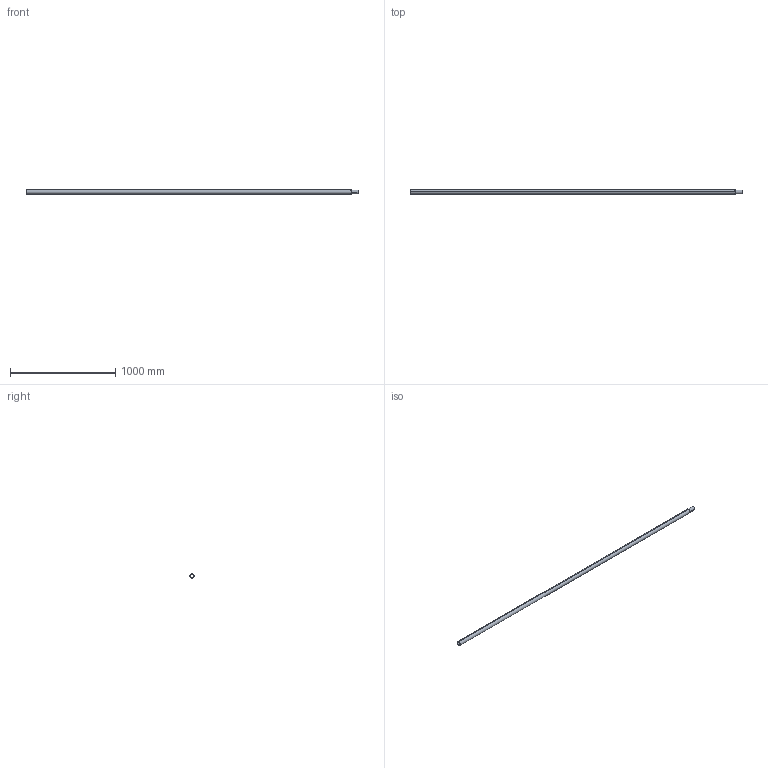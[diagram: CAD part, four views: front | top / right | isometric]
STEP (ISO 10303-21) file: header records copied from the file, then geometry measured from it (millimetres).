
FILE_DESCRIPTION (( 'STEP AP203' ), '1' );
FILE_NAME ('Rostfritt rör Ø42x1,5 L_3097.STEP', '2014-09-26T06:29:32', ( '' ), ( '' ), 'SwSTEP 2.0', 'SolidWorks 2014', '' );
FILE_SCHEMA (( 'CONFIG_CONTROL_DESIGN' ));
Length unit declared in the file: millimetre
Products named in the file (1): Rostfritt rör Ø42x1,5 L_3097
Bounding box: 3161 x 42 x 42 mm (x, y, z)
Volume: 602154.5 mm3; surface area: 803235.5 mm2
Topology: 1 solids, 1 shells, 14 faces, 32 edges, 20 vertices
Faces by surface type: cylinder 8, cone 4, plane 2
Entity records: 485 total; most frequent: DIRECTION 82, CARTESIAN_POINT 67, ORIENTED_EDGE 64, AXIS2_PLACEMENT_3D 35, EDGE_CURVE 32, VERTEX_POINT 20, CIRCLE 20, EDGE_LOOP 16
